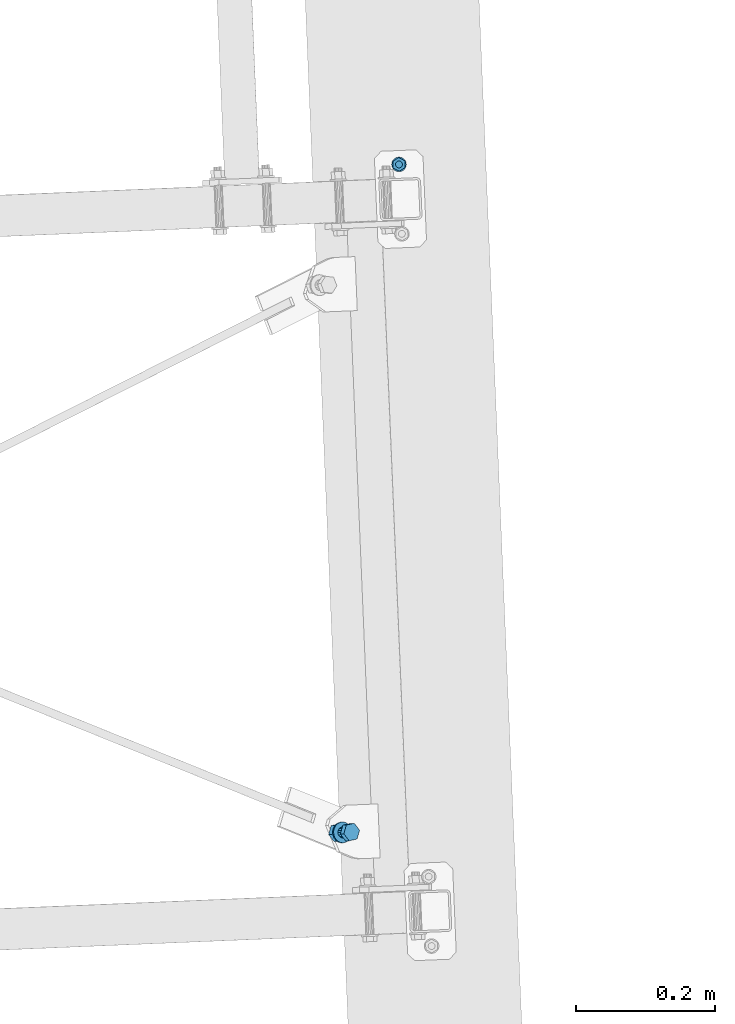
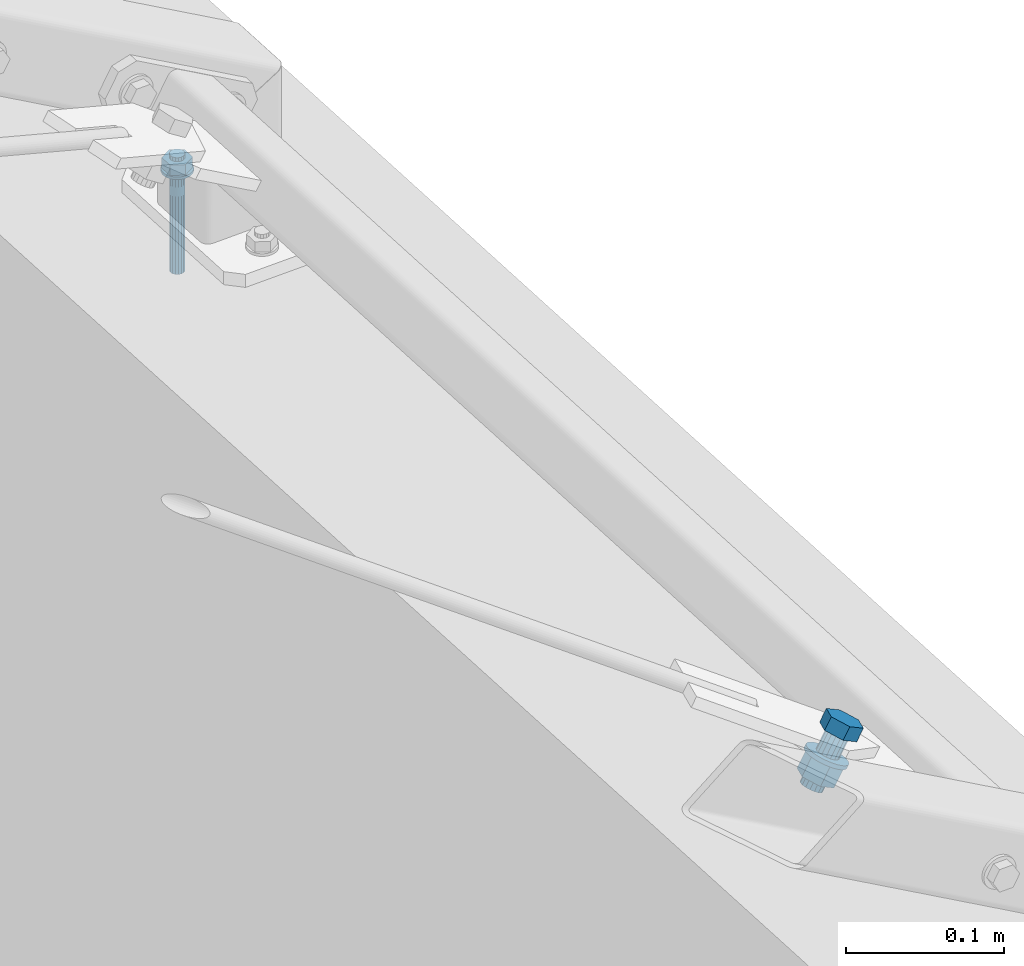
# One storey, part 241 of 288: 2 mechanical fasteners.
"""IFC2X3 building model written with IfcOpenShell, lengths in millimetres."""

from ifc_helpers import new_model, entity, si_unit, converted_unit, origin_with_axes, place, context, project, spatial, faceted_brep, element, save


model = new_model("IFC2X3")

# Units and contexts
model_context = context("Model", 3, precision=1e-09, world=origin_with_axes())
ifc_project = project(units=[si_unit("LENGTHUNIT", "METRE", prefix="MILLI"), si_unit("AREAUNIT", "SQUARE_METRE"), si_unit("VOLUMEUNIT", "CUBIC_METRE"), converted_unit("PLANEANGLEUNIT", "DEGREE", entity("IfcPlaneAngleMeasure", 0.01745329), si_unit("PLANEANGLEUNIT", "RADIAN"), dimensions=[0, 0, 0, 0, 0, 0, 0])], contexts=[model_context])

# Site, building, storey
site_placement = place(None, origin_with_axes())
site = spatial("IfcSite", under=ifc_project, at=site_placement, Name="Remont ?wietlik?w nad MC w NCPP w Opolu", CompositionType="ELEMENT")
building_placement = place(site_placement, origin_with_axes())
building = spatial("IfcBuilding", under=site, at=building_placement, Name="Konstrukcja 1", CompositionType="ELEMENT")
storey_placement = place(building_placement, origin_with_axes())
storey = spatial("IfcBuildingStorey", under=building, at=storey_placement, Name="Default Storey", CompositionType="ELEMENT", Elevation=0.0)

# Mechanical fasteners
mechanical_fastener_1_placement = place(None, origin_with_axes())
element("IfcMechanicalFastener", 1, at=mechanical_fastener_1_placement, inside=storey, ObjectType="Anchor_Bolt", NominalDiameter=10.0, NominalLength=90.0, context=model_context, shape_type="Brep", body=[
    faceted_brep([(1399.577584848, 11420.039219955, 12.000000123), (1399.577584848, 11420.039219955, 10.000000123), (1399.864526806, 11418.000958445, 10.000000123), (1399.864526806, 11418.000958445, 12.000000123), (1400.543600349, 11416.057841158, 10.000000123), (1400.543600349, 11416.057841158, 12.000000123), (1401.588709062, 11414.284541, 10.000000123), (1401.588709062, 11414.284541, 12.000000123), (1402.959690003, 11412.749204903, 10.000000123), (1402.959690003, 11412.749204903, 12.000000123), (1404.603857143, 11411.510834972, 10.000000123), (1404.603857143, 11411.510834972, 12.000000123), (1406.458026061, 11410.617021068, 10.000000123), (1406.458026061, 11410.617021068, 12.000000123), (1408.450942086, 11410.102111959, 10.000000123), (1408.450942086, 11410.102111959, 12.000000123), (1410.506018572, 11409.985895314, 10.000000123), (1410.506018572, 11409.985895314, 12.000000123), (1412.544280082, 11410.272837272, 10.000000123), (1412.544280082, 11410.272837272, 12.000000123), (1414.48739737, 11410.951910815, 10.000000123), (1414.48739737, 11410.951910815, 12.000000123), (1416.260697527, 11411.997019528, 10.000000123), (1416.260697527, 11411.997019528, 12.000000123), (1417.796033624, 11413.368000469, 10.000000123), (1417.796033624, 11413.368000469, 12.000000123), (1419.034403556, 11415.012167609, 10.000000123), (1419.034403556, 11415.012167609, 12.000000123), (1419.928217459, 11416.866336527, 10.000000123), (1419.928217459, 11416.866336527, 12.000000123), (1420.443126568, 11418.859252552, 10.000000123), (1420.443126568, 11418.859252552, 12.000000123), (1420.559343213, 11420.914329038, 10.000000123), (1420.559343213, 11420.914329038, 12.000000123), (1420.272401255, 11422.952590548, 10.000000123), (1420.272401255, 11422.952590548, 12.000000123), (1419.593327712, 11424.895707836, 10.000000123), (1419.593327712, 11424.895707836, 12.000000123), (1418.548218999, 11426.669007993, 10.000000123), (1418.548218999, 11426.669007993, 12.000000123), (1417.177238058, 11428.20434409, 10.000000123), (1417.177238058, 11428.20434409, 12.000000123), (1415.533070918, 11429.442714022, 10.000000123), (1415.533070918, 11429.442714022, 12.000000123), (1413.678902, 11430.336527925, 10.000000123), (1413.678902, 11430.336527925, 12.000000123), (1411.685985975, 11430.851437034, 10.000000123), (1411.685985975, 11430.851437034, 12.000000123), (1409.630909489, 11430.967653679, 10.000000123), (1409.630909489, 11430.967653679, 12.000000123), (1407.592647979, 11430.680711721, 10.000000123), (1407.592647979, 11430.680711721, 12.000000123), (1405.649530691, 11430.001638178, 10.000000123), (1405.649530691, 11430.001638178, 12.000000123), (1403.876230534, 11428.956529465, 10.000000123), (1403.876230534, 11428.956529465, 12.000000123), (1402.340894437, 11427.585548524, 10.000000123), (1402.340894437, 11427.585548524, 12.000000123), (1401.102524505, 11425.941381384, 10.000000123), (1401.102524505, 11425.941381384, 12.000000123), (1400.208710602, 11424.087212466, 10.000000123), (1400.208710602, 11424.087212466, 12.000000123), (1399.693801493, 11422.094296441, 10.000000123), (1399.693801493, 11422.094296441, 12.000000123)], [[[0, 1, 2, 3]], [[3, 2, 4, 5]], [[5, 4, 6, 7]], [[7, 6, 8, 9]], [[9, 8, 10, 11]], [[11, 10, 12, 13]], [[13, 12, 14, 15]], [[15, 14, 16, 17]], [[17, 16, 18, 19]], [[19, 18, 20, 21]], [[21, 20, 22, 23]], [[23, 22, 24, 25]], [[25, 24, 26, 27]], [[27, 26, 28, 29]], [[29, 28, 30, 31]], [[31, 30, 32, 33]], [[33, 32, 34, 35]], [[35, 34, 36, 37]], [[37, 36, 38, 39]], [[39, 38, 40, 41]], [[41, 40, 42, 43]], [[43, 42, 44, 45]], [[45, 44, 46, 47]], [[47, 46, 48, 49]], [[49, 48, 50, 51]], [[51, 50, 52, 53]], [[53, 52, 54, 55]], [[55, 54, 56, 57]], [[57, 56, 58, 59]], [[59, 58, 60, 61]], [[61, 60, 62, 63]], [[63, 62, 1, 0]], [[0, 3, 5, 7, 9, 11, 13, 15, 17, 19, 21, 23, 25, 27, 29, 31, 33, 35, 37, 39, 41, 43, 45, 47, 49, 51, 53, 55, 57, 59, 61, 63]], [[1, 62, 60, 58, 56, 54, 52, 50, 48, 46, 44, 42, 40, 38, 36, 34, 32, 30, 28, 26, 24, 22, 20, 18, 16, 14, 12, 10, 8, 6, 4, 2]]]),
    faceted_brep([(1418.752332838, 11415.934702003, 12.000000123), (1418.752332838, 11415.934702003, 20.000000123), (1410.476848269, 11410.68528726, 20.000000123), (1410.476848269, 11410.68528726, 12.000000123), (1401.792979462, 11415.227359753, 20.000000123), (1401.792979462, 11415.227359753, 12.000000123), (1401.384595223, 11425.01884699, 20.000000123), (1401.384595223, 11425.01884699, 12.000000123), (1409.660079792, 11430.268261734, 20.000000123), (1409.660079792, 11430.268261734, 12.000000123), (1418.343948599, 11425.72618924, 20.000000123), (1418.343948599, 11425.72618924, 12.000000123)], [[[0, 1, 2, 3]], [[3, 2, 4, 5]], [[5, 4, 6, 7]], [[7, 6, 8, 9]], [[9, 8, 10, 11]], [[11, 10, 1, 0]], [[4, 2, 1, 10, 8, 6]], [[0, 3, 5, 7, 9, 11]]]),
    faceted_brep([(1405.072807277, 11420.268415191, 23.000000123), (1405.072807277, 11420.268415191, 20.000000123), (1405.532814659, 11418.372520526, 20.000000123), (1405.532814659, 11418.372520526, 23.000000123), (1406.683333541, 11416.796979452, 20.000000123), (1406.683333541, 11416.796979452, 23.000000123), (1408.349207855, 11415.781653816, 20.000000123), (1408.349207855, 11415.781653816, 23.000000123), (1410.276823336, 11415.481117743, 20.000000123), (1410.276823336, 11415.481117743, 23.000000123), (1412.172718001, 11415.941125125, 20.000000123), (1412.172718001, 11415.941125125, 23.000000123), (1413.748259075, 11417.091644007, 20.000000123), (1413.748259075, 11417.091644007, 23.000000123), (1414.763584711, 11418.757518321, 20.000000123), (1414.763584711, 11418.757518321, 23.000000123), (1415.064120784, 11420.685133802, 20.000000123), (1415.064120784, 11420.685133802, 23.000000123), (1414.604113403, 11422.581028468, 20.000000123), (1414.604113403, 11422.581028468, 23.000000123), (1413.45359452, 11424.156569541, 20.000000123), (1413.45359452, 11424.156569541, 23.000000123), (1411.787720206, 11425.171895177, 20.000000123), (1411.787720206, 11425.171895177, 23.000000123), (1409.860104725, 11425.47243125, 20.000000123), (1409.860104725, 11425.47243125, 23.000000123), (1407.96421006, 11425.012423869, 20.000000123), (1407.96421006, 11425.012423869, 23.000000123), (1406.388668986, 11423.861904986, 20.000000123), (1406.388668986, 11423.861904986, 23.000000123), (1405.37334335, 11422.196030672, 20.000000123), (1405.37334335, 11422.196030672, 23.000000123)], [[[0, 1, 2, 3]], [[3, 2, 4, 5]], [[5, 4, 6, 7]], [[7, 6, 8, 9]], [[9, 8, 10, 11]], [[11, 10, 12, 13]], [[13, 12, 14, 15]], [[15, 14, 16, 17]], [[17, 16, 18, 19]], [[19, 18, 20, 21]], [[21, 20, 22, 23]], [[23, 22, 24, 25]], [[25, 24, 26, 27]], [[27, 26, 28, 29]], [[29, 28, 30, 31]], [[31, 30, 1, 0]], [[0, 3, 5, 7, 9, 11, 13, 15, 17, 19, 21, 23, 25, 27, 29, 31]], [[1, 30, 28, 26, 24, 22, 20, 18, 16, 14, 12, 10, 8, 6, 4, 2]]]),
    faceted_brep([(1405.072807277, 11420.268415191, 10.000000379), (1405.072807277, 11420.268415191, 1.23e-07), (1405.532814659, 11418.372520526, 1.23e-07), (1405.532814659, 11418.372520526, 10.000000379), (1406.683333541, 11416.796979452, 1.23e-07), (1406.683333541, 11416.796979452, 10.000000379), (1408.349207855, 11415.781653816, 1.23e-07), (1408.349207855, 11415.781653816, 10.000000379), (1410.276823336, 11415.481117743, 1.23e-07), (1410.276823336, 11415.481117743, 10.000000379), (1412.172718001, 11415.941125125, 1.23e-07), (1412.172718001, 11415.941125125, 10.000000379), (1413.748259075, 11417.091644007, 1.23e-07), (1413.748259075, 11417.091644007, 10.000000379), (1414.763584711, 11418.757518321, 1.23e-07), (1414.763584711, 11418.757518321, 10.000000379), (1415.064120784, 11420.685133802, 1.23e-07), (1415.064120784, 11420.685133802, 10.000000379), (1414.604113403, 11422.581028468, 1.23e-07), (1414.604113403, 11422.581028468, 10.000000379), (1413.45359452, 11424.156569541, 1.23e-07), (1413.45359452, 11424.156569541, 10.000000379), (1411.787720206, 11425.171895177, 1.23e-07), (1411.787720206, 11425.171895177, 10.000000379), (1409.860104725, 11425.47243125, 1.23e-07), (1409.860104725, 11425.47243125, 10.000000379), (1407.96421006, 11425.012423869, 1.23e-07), (1407.96421006, 11425.012423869, 10.000000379), (1406.388668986, 11423.861904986, 1.23e-07), (1406.388668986, 11423.861904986, 10.000000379), (1405.37334335, 11422.196030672, 1.23e-07), (1405.37334335, 11422.196030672, 10.000000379)], [[[0, 1, 2, 3]], [[3, 2, 4, 5]], [[5, 4, 6, 7]], [[7, 6, 8, 9]], [[9, 8, 10, 11]], [[11, 10, 12, 13]], [[13, 12, 14, 15]], [[15, 14, 16, 17]], [[17, 16, 18, 19]], [[19, 18, 20, 21]], [[21, 20, 22, 23]], [[23, 22, 24, 25]], [[25, 24, 26, 27]], [[27, 26, 28, 29]], [[29, 28, 30, 31]], [[31, 30, 1, 0]], [[0, 3, 5, 7, 9, 11, 13, 15, 17, 19, 21, 23, 25, 27, 29, 31]], [[1, 30, 28, 26, 24, 22, 20, 18, 16, 14, 12, 10, 8, 6, 4, 2]]]),
    faceted_brep([(1405.072807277, 11420.268415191, -1.32e-07), (1405.072807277, 11420.268415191, -6.999999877), (1405.209446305, 11419.297814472, -6.999999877), (1405.209446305, 11419.297814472, -1.32e-07), (1405.532814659, 11418.372520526, -6.999999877), (1405.532814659, 11418.372520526, -1.32e-07), (1406.030485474, 11417.528091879, -6.999999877), (1406.030485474, 11417.528091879, -1.32e-07), (1406.683333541, 11416.796979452, -6.999999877), (1406.683333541, 11416.796979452, -1.32e-07), (1407.466270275, 11416.207279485, -6.999999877), (1407.466270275, 11416.207279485, -1.32e-07), (1408.349207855, 11415.781653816, -6.999999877), (1408.349207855, 11415.781653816, -1.32e-07), (1409.298215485, 11415.536459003, -6.999999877), (1409.298215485, 11415.536459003, -1.32e-07), (1410.276823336, 11415.481117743, -6.999999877), (1410.276823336, 11415.481117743, -1.32e-07), (1411.247424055, 11415.617756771, -6.999999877), (1411.247424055, 11415.617756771, -1.32e-07), (1412.172718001, 11415.941125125, -6.999999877), (1412.172718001, 11415.941125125, -1.32e-07), (1413.017146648, 11416.43879594, -6.999999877), (1413.017146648, 11416.43879594, -1.32e-07), (1413.748259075, 11417.091644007, -6.999999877), (1413.748259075, 11417.091644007, -1.32e-07), (1414.337959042, 11417.874580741, -6.999999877), (1414.337959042, 11417.874580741, -1.32e-07), (1414.763584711, 11418.757518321, -6.999999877), (1414.763584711, 11418.757518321, -1.32e-07), (1415.008779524, 11419.706525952, -6.999999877), (1415.008779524, 11419.706525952, -1.32e-07), (1415.064120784, 11420.685133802, -6.999999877), (1415.064120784, 11420.685133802, -1.32e-07), (1414.927481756, 11421.655734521, -6.999999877), (1414.927481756, 11421.655734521, -1.32e-07), (1414.604113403, 11422.581028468, -6.999999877), (1414.604113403, 11422.581028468, -1.32e-07), (1414.106442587, 11423.425457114, -6.999999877), (1414.106442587, 11423.425457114, -1.32e-07), (1413.45359452, 11424.156569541, -6.999999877), (1413.45359452, 11424.156569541, -1.32e-07), (1412.670657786, 11424.746269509, -6.999999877), (1412.670657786, 11424.746269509, -1.32e-07), (1411.787720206, 11425.171895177, -6.999999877), (1411.787720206, 11425.171895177, -1.32e-07), (1410.838712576, 11425.41708999, -6.999999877), (1410.838712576, 11425.41708999, -1.32e-07), (1409.860104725, 11425.47243125, -6.999999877), (1409.860104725, 11425.47243125, -1.32e-07), (1408.889504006, 11425.335792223, -6.999999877), (1408.889504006, 11425.335792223, -1.32e-07), (1407.96421006, 11425.012423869, -6.999999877), (1407.96421006, 11425.012423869, -1.32e-07), (1407.119781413, 11424.514753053, -6.999999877), (1407.119781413, 11424.514753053, -1.32e-07), (1406.388668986, 11423.861904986, -6.999999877), (1406.388668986, 11423.861904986, -1.32e-07), (1405.798969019, 11423.078968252, -6.999999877), (1405.798969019, 11423.078968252, -1.32e-07), (1405.37334335, 11422.196030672, -6.999999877), (1405.37334335, 11422.196030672, -1.32e-07), (1405.128148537, 11421.247023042, -6.999999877), (1405.128148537, 11421.247023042, -1.32e-07)], [[[0, 1, 2, 3]], [[3, 2, 4, 5]], [[5, 4, 6, 7]], [[7, 6, 8, 9]], [[9, 8, 10, 11]], [[11, 10, 12, 13]], [[13, 12, 14, 15]], [[15, 14, 16, 17]], [[17, 16, 18, 19]], [[19, 18, 20, 21]], [[21, 20, 22, 23]], [[23, 22, 24, 25]], [[25, 24, 26, 27]], [[27, 26, 28, 29]], [[29, 28, 30, 31]], [[31, 30, 32, 33]], [[33, 32, 34, 35]], [[35, 34, 36, 37]], [[37, 36, 38, 39]], [[39, 38, 40, 41]], [[41, 40, 42, 43]], [[43, 42, 44, 45]], [[45, 44, 46, 47]], [[47, 46, 48, 49]], [[49, 48, 50, 51]], [[51, 50, 52, 53]], [[53, 52, 54, 55]], [[55, 54, 56, 57]], [[57, 56, 58, 59]], [[59, 58, 60, 61]], [[61, 60, 62, 63]], [[63, 62, 1, 0]], [[0, 3, 5, 7, 9, 11, 13, 15, 17, 19, 21, 23, 25, 27, 29, 31, 33, 35, 37, 39, 41, 43, 45, 47, 49, 51, 53, 55, 57, 59, 61, 63]], [[1, 62, 60, 58, 56, 54, 52, 50, 48, 46, 44, 42, 40, 38, 36, 34, 32, 30, 28, 26, 24, 22, 20, 18, 16, 14, 12, 10, 8, 6, 4, 2]]]),
    faceted_brep([(1405.072807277, 11420.268415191, -6.999999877), (1405.072807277, 11420.268415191, -66.999999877), (1405.532814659, 11418.372520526, -66.999999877), (1405.532814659, 11418.372520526, -6.999999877), (1406.683333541, 11416.796979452, -66.999999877), (1406.683333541, 11416.796979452, -6.999999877), (1408.349207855, 11415.781653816, -66.999999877), (1408.349207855, 11415.781653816, -6.999999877), (1410.276823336, 11415.481117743, -66.999999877), (1410.276823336, 11415.481117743, -6.999999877), (1412.172718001, 11415.941125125, -66.999999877), (1412.172718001, 11415.941125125, -6.999999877), (1413.748259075, 11417.091644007, -66.999999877), (1413.748259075, 11417.091644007, -6.999999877), (1414.763584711, 11418.757518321, -66.999999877), (1414.763584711, 11418.757518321, -6.999999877), (1415.064120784, 11420.685133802, -66.999999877), (1415.064120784, 11420.685133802, -6.999999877), (1414.604113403, 11422.581028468, -66.999999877), (1414.604113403, 11422.581028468, -6.999999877), (1413.45359452, 11424.156569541, -66.999999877), (1413.45359452, 11424.156569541, -6.999999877), (1411.787720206, 11425.171895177, -66.999999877), (1411.787720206, 11425.171895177, -6.999999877), (1409.860104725, 11425.47243125, -66.999999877), (1409.860104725, 11425.47243125, -6.999999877), (1407.96421006, 11425.012423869, -66.999999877), (1407.96421006, 11425.012423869, -6.999999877), (1406.388668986, 11423.861904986, -66.999999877), (1406.388668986, 11423.861904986, -6.999999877), (1405.37334335, 11422.196030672, -66.999999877), (1405.37334335, 11422.196030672, -6.999999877)], [[[0, 1, 2, 3]], [[3, 2, 4, 5]], [[5, 4, 6, 7]], [[7, 6, 8, 9]], [[9, 8, 10, 11]], [[11, 10, 12, 13]], [[13, 12, 14, 15]], [[15, 14, 16, 17]], [[17, 16, 18, 19]], [[19, 18, 20, 21]], [[21, 20, 22, 23]], [[23, 22, 24, 25]], [[25, 24, 26, 27]], [[27, 26, 28, 29]], [[29, 28, 30, 31]], [[31, 30, 1, 0]], [[0, 3, 5, 7, 9, 11, 13, 15, 17, 19, 21, 23, 25, 27, 29, 31]], [[1, 30, 28, 26, 24, 22, 20, 18, 16, 14, 12, 10, 8, 6, 4, 2]]]),
])
mechanical_fastener_2_placement = place(None, origin_with_axes())
element("IfcMechanicalFastener", 2, at=mechanical_fastener_2_placement, inside=storey, ObjectType="Bolt#1", NominalDiameter=16.0, NominalLength=40.0, context=model_context, shape_type="Brep", body=[
    faceted_brep([(1329.336129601, 10469.669861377, 189.643980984), (1334.343800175, 10469.878521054, 198.297286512), (1345.695146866, 10472.348231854, 191.66870583), (1340.687476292, 10472.139572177, 183.015400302), (1353.341398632, 10462.201745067, 187.48848277), (1348.333728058, 10461.99308539, 178.835177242), (1349.636303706, 10449.585547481, 189.936840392), (1344.628633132, 10449.376887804, 181.283534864), (1338.284957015, 10447.11583668, 196.565421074), (1333.277286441, 10446.907177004, 187.912115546), (1330.638705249, 10457.262323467, 200.745644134), (1325.631034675, 10457.05366379, 192.092338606)], [[[0, 1, 2, 3]], [[3, 2, 4, 5]], [[5, 4, 6, 7]], [[7, 6, 8, 9]], [[9, 8, 10, 11]], [[11, 10, 1, 0]], [[4, 2, 1, 10, 8, 6]], [[0, 3, 5, 7, 9, 11]]]),
    faceted_brep([(1343.542841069, 10456.872345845, 181.731142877), (1335.530568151, 10456.538490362, 167.885854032), (1335.879259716, 10459.62806947, 167.609566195), (1343.891532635, 10459.961924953, 181.45485504), (1335.176095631, 10462.65088326, 167.943597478), (1343.18836855, 10462.984738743, 181.788886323), (1333.528126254, 10465.146735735, 168.837094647), (1341.540399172, 10465.480591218, 182.682383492), (1331.186239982, 10466.735655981, 170.154030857), (1339.1985129, 10467.069511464, 183.999319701), (1328.506967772, 10467.175745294, 171.693914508), (1336.51924069, 10467.509600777, 185.539203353), (1325.89820453, 10466.400004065, 173.222312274), (1333.910477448, 10466.733859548, 187.067601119), (1323.75711081, 10464.526531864, 174.506539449), (1331.769383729, 10464.860387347, 188.351828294), (1322.409648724, 10461.840547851, 175.351084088), (1330.421921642, 10462.174403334, 189.196372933), (1322.060957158, 10458.750968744, 175.627371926), (1330.073230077, 10459.084824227, 189.472660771), (1322.764121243, 10455.728154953, 175.293340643), (1330.776394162, 10456.062010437, 189.138629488), (1324.412090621, 10453.232302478, 174.399843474), (1332.42436354, 10453.566157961, 188.245132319), (1326.753976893, 10451.643382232, 173.082907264), (1334.766249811, 10451.977237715, 186.928196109), (1329.433249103, 10451.20329292, 171.543023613), (1337.445522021, 10451.537148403, 185.388312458), (1332.042012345, 10451.979034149, 170.014625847), (1340.054285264, 10452.312889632, 183.859914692), (1334.183106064, 10453.852506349, 168.730398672), (1342.195378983, 10454.186361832, 182.575687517)], [[[0, 1, 2, 3]], [[3, 2, 4, 5]], [[5, 4, 6, 7]], [[7, 6, 8, 9]], [[9, 8, 10, 11]], [[11, 10, 12, 13]], [[13, 12, 14, 15]], [[15, 14, 16, 17]], [[17, 16, 18, 19]], [[19, 18, 20, 21]], [[21, 20, 22, 23]], [[23, 22, 24, 25]], [[25, 24, 26, 27]], [[27, 26, 28, 29]], [[29, 28, 30, 31]], [[31, 30, 1, 0]], [[0, 3, 5, 7, 9, 11, 13, 15, 17, 19, 21, 23, 25, 27, 29, 31]], [[1, 30, 28, 26, 24, 22, 20, 18, 16, 14, 12, 10, 8, 6, 4, 2]]]),
    faceted_brep([(1341.2709704, 10454.218840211, 164.619815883), (1339.768669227, 10454.156242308, 162.023824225), (1340.34296002, 10457.01208677, 161.622618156), (1341.845261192, 10457.074684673, 164.218609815), (1340.422465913, 10459.949203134, 161.505784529), (1341.924767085, 10460.011801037, 164.101776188), (1340.004131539, 10462.854719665, 161.677813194), (1341.506432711, 10462.917317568, 164.273804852), (1339.104033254, 10465.616978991, 162.132093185), (1340.606334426, 10465.679576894, 164.728084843), (1337.756761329, 10468.129829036, 162.851166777), (1339.259062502, 10468.192426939, 165.447158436), (1336.01409067, 10470.296702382, 163.807400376), (1337.516391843, 10470.359300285, 166.403392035), (1333.942991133, 10472.034327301, 164.96404646), (1335.445292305, 10472.096925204, 167.560038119), (1331.623053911, 10473.275927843, 166.27665577), (1333.125355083, 10473.338525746, 168.872647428), (1329.14343289, 10473.973789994, 167.694785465), (1330.645734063, 10474.036387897, 170.290777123), (1326.599418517, 10474.101095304, 169.163937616), (1328.101719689, 10474.163693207, 171.759929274), (1324.088775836, 10473.652951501, 170.627653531), (1325.591077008, 10473.715549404, 173.223645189), (1321.707987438, 10472.6465805, 172.029683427), (1323.21028861, 10472.709178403, 174.625675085), (1319.548545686, 10471.120656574, 173.316148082), (1321.050846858, 10471.183254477, 175.912139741), (1317.693436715, 10469.133820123, 174.437609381), (1319.195737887, 10469.196418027, 177.033601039), (1316.213951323, 10466.76242416, 175.350970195), (1317.716252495, 10466.825022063, 177.946961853), (1315.166945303, 10464.0976001, 176.02113058), (1316.669246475, 10464.160198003, 178.617122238), (1314.59265451, 10461.241755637, 176.422336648), (1316.094955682, 10461.30435354, 179.018328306), (1314.513148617, 10458.304639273, 176.539170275), (1316.015449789, 10458.367237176, 179.135161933), (1314.931482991, 10455.399122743, 176.36714161), (1316.433784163, 10455.461720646, 178.963133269), (1315.831581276, 10452.636863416, 175.912861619), (1317.333882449, 10452.699461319, 178.508853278), (1317.178853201, 10450.124013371, 175.193788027), (1318.681154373, 10450.186611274, 177.789779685), (1318.92152386, 10447.957140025, 174.237554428), (1320.423825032, 10448.019737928, 176.833546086), (1320.992623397, 10446.219515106, 173.080908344), (1322.494924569, 10446.282113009, 175.676900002), (1323.312560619, 10444.977914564, 171.768299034), (1324.814861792, 10445.040512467, 174.364290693), (1325.79218164, 10444.280052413, 170.35016934), (1327.294482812, 10444.342650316, 172.946160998), (1328.336196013, 10444.152747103, 168.881017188), (1329.838497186, 10444.215345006, 171.477008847), (1330.846838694, 10444.600890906, 167.417301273), (1332.349139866, 10444.663488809, 170.013292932), (1333.227627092, 10445.607261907, 166.015271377), (1334.729928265, 10445.669859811, 168.611263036), (1335.387068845, 10447.133185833, 164.728806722), (1336.889370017, 10447.195783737, 167.32479838), (1337.242177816, 10449.120022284, 163.607345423), (1338.744478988, 10449.182620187, 166.203337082), (1338.721663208, 10451.491418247, 162.693984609), (1340.22396438, 10451.55401615, 165.289976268)], [[[0, 1, 2, 3]], [[3, 2, 4, 5]], [[5, 4, 6, 7]], [[7, 6, 8, 9]], [[9, 8, 10, 11]], [[11, 10, 12, 13]], [[13, 12, 14, 15]], [[15, 14, 16, 17]], [[17, 16, 18, 19]], [[19, 18, 20, 21]], [[21, 20, 22, 23]], [[23, 22, 24, 25]], [[25, 24, 26, 27]], [[27, 26, 28, 29]], [[29, 28, 30, 31]], [[31, 30, 32, 33]], [[33, 32, 34, 35]], [[35, 34, 36, 37]], [[37, 36, 38, 39]], [[39, 38, 40, 41]], [[41, 40, 42, 43]], [[43, 42, 44, 45]], [[45, 44, 46, 47]], [[47, 46, 48, 49]], [[49, 48, 50, 51]], [[51, 50, 52, 53]], [[53, 52, 54, 55]], [[55, 54, 56, 57]], [[57, 56, 58, 59]], [[59, 58, 60, 61]], [[61, 60, 62, 63]], [[63, 62, 1, 0]], [[0, 3, 5, 7, 9, 11, 13, 15, 17, 19, 21, 23, 25, 27, 29, 31, 33, 35, 37, 39, 41, 43, 45, 47, 49, 51, 53, 55, 57, 59, 61, 63]], [[1, 62, 60, 58, 56, 54, 52, 50, 48, 46, 44, 42, 40, 38, 36, 34, 32, 30, 28, 26, 24, 22, 20, 18, 16, 14, 12, 10, 8, 6, 4, 2]]]),
    faceted_brep([(1312.41020305, 10468.964591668, 160.39580828), (1319.8215555, 10469.27340799, 173.202700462), (1331.172902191, 10471.74311879, 166.57411978), (1323.761549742, 10471.434302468, 153.767227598), (1338.819153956, 10461.596632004, 162.39389672), (1331.407801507, 10461.287815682, 149.587004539), (1335.114059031, 10448.980434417, 164.842254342), (1327.702706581, 10448.671618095, 152.035362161), (1323.762712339, 10446.510723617, 171.470835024), (1316.35135989, 10446.201907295, 158.663942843), (1316.116460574, 10456.657210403, 175.651058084), (1308.705108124, 10456.348394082, 162.844165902)], [[[0, 1, 2, 3]], [[3, 2, 4, 5]], [[5, 4, 6, 7]], [[7, 6, 8, 9]], [[9, 8, 10, 11]], [[11, 10, 1, 0]], [[4, 2, 1, 10, 8, 6]], [[0, 3, 5, 7, 9, 11]]]),
    faceted_brep([(1326.61691454, 10456.167076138, 152.482970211), (1323.512158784, 10456.037707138, 147.117920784), (1323.86085035, 10459.127286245, 146.841632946), (1326.965606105, 10459.256655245, 152.206682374), (1323.157686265, 10462.150100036, 147.175664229), (1326.262442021, 10462.279469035, 152.540713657), (1321.509716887, 10464.645952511, 148.069161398), (1324.614472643, 10464.77532151, 153.434210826), (1319.167830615, 10466.234872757, 149.386097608), (1322.272586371, 10466.364241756, 154.751147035), (1316.488558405, 10466.674962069, 150.925981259), (1319.593314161, 10466.804331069, 156.291030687), (1313.879795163, 10465.89922084, 152.454379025), (1316.984550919, 10466.02858984, 157.819428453), (1311.738701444, 10464.02574864, 153.738606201), (1314.8434572, 10464.155117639, 159.103655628), (1310.391239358, 10461.339764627, 154.58315084), (1313.495995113, 10461.469133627, 159.948200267), (1310.042547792, 10458.250185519, 154.859438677), (1313.147303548, 10458.379554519, 160.224488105), (1310.745711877, 10455.227371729, 154.525407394), (1313.850467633, 10455.356740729, 159.890456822), (1312.393681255, 10452.731519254, 153.631910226), (1315.49843701, 10452.860888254, 158.996959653), (1314.735567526, 10451.142599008, 152.314974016), (1317.840323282, 10451.271968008, 157.680023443), (1317.414839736, 10450.702509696, 150.775090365), (1320.519595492, 10450.831878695, 156.140139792), (1320.023602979, 10451.478250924, 149.246692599), (1323.128358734, 10451.607619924, 154.611742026), (1322.164696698, 10453.351723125, 147.962465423), (1325.269452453, 10453.481092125, 153.327514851)], [[[0, 1, 2, 3]], [[3, 2, 4, 5]], [[5, 4, 6, 7]], [[7, 6, 8, 9]], [[9, 8, 10, 11]], [[11, 10, 12, 13]], [[13, 12, 14, 15]], [[15, 14, 16, 17]], [[17, 16, 18, 19]], [[19, 18, 20, 21]], [[21, 20, 22, 23]], [[23, 22, 24, 25]], [[25, 24, 26, 27]], [[27, 26, 28, 29]], [[29, 28, 30, 31]], [[31, 30, 1, 0]], [[0, 3, 5, 7, 9, 11, 13, 15, 17, 19, 21, 23, 25, 27, 29, 31]], [[1, 30, 28, 26, 24, 22, 20, 18, 16, 14, 12, 10, 8, 6, 4, 2]]]),
])

save(model, "model.ifc")
